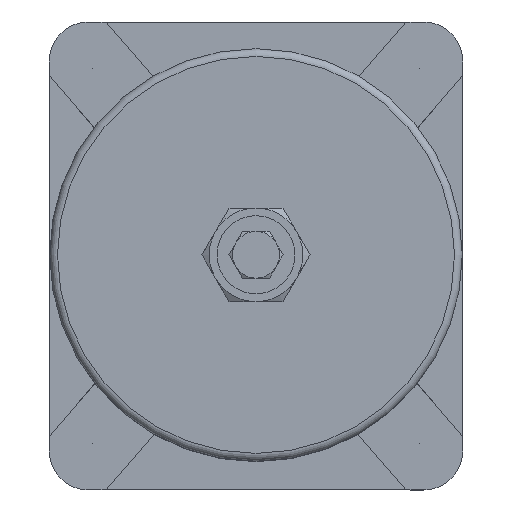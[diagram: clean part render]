
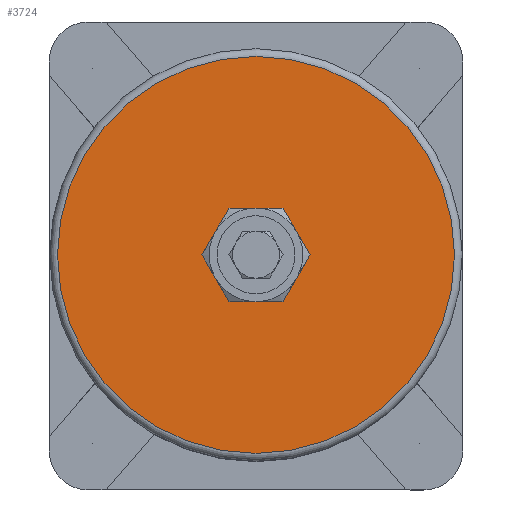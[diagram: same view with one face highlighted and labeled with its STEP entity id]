
A CAD part, top view. The second image highlights one B-rep face of the part: STEP entity #3724.
In plain terms, the highlighted planar face has unit normal (0, 0, 1).
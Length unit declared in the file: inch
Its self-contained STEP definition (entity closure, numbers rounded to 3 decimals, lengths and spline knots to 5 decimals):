
#164=FACE_BOUND('',#654,.T.);
#243=CIRCLE('',#3983,3.18109);
#246=CIRCLE('',#3988,0.4375);
#422=FACE_OUTER_BOUND('',#653,.T.);
#653=EDGE_LOOP('',(#2621));
#654=EDGE_LOOP('',(#2622));
#1551=VERTEX_POINT('',#5606);
#1554=VERTEX_POINT('',#5614);
#1951=EDGE_CURVE('',#1551,#1551,#243,.T.);
#1954=EDGE_CURVE('',#1554,#1554,#246,.T.);
#2621=ORIENTED_EDGE('',*,*,#1951,.F.);
#2622=ORIENTED_EDGE('',*,*,#1954,.T.);
#3341=PLANE('',#3987);
#3724=ADVANCED_FACE('',(#422,#164),#3341,.T.);
#3983=AXIS2_PLACEMENT_3D('',#5607,#4525,#4526);
#3987=AXIS2_PLACEMENT_3D('',#5613,#4533,#4534);
#3988=AXIS2_PLACEMENT_3D('',#5615,#4535,#4536);
#4525=DIRECTION('center_axis',(0.,0.,
-1.));
#4526=DIRECTION('ref_axis',(-1.,0.,0.));
#4533=DIRECTION('center_axis',(0.,0.,
1.));
#4534=DIRECTION('ref_axis',(1.,0.,0.));
#4535=DIRECTION('center_axis',(0.,0.,
-1.));
#4536=DIRECTION('ref_axis',(1.,0.,0.));
#5606=CARTESIAN_POINT('',(3.18109,0.,10.1875));
#5607=CARTESIAN_POINT('Origin',(0.,0.,
10.1875));
#5613=CARTESIAN_POINT('Origin',(1.875,0.,10.1875));
#5614=CARTESIAN_POINT('',(0.4375,0.,10.1875));
#5615=CARTESIAN_POINT('Origin',(0.,0.,
10.1875));
